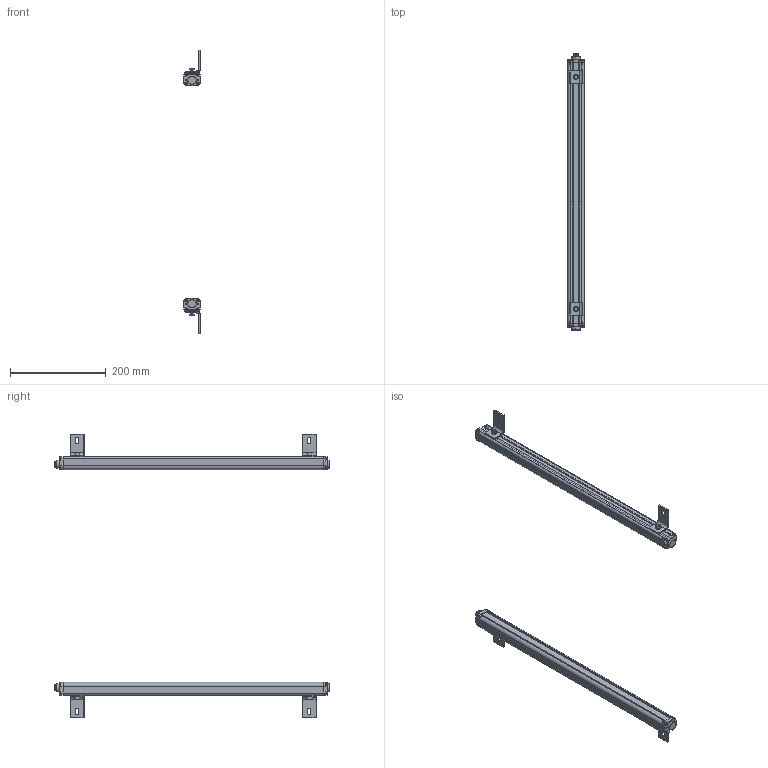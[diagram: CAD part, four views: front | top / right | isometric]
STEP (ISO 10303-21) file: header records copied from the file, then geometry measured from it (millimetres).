
FILE_DESCRIPTION (( 'STEP AP214' ), '1' );
FILE_NAME ('elg5210.STEP', '2018-03-08T11:14:31', ( '' ), ( '' ), 'SwSTEP 2.0', 'SolidWorks 2017', '' );
FILE_SCHEMA (( 'AUTOMOTIVE_DESIGN' ));
Length unit declared in the file: millimetre
Products named in the file (11): elgdg03-5210; dlx-5210; elg5210; lx-5210; czzj-5210; hkct1-5210; elgw-5210; hk-5210; glgdg-5210; bz1-5210; lgp-5210
Assembly tree (40 placements, depth 2):
  elg5210
    elgw-5210  x2
    bz1-5210  x2
    lgp-5210  x2
    glgdg-5210  x2
    elgdg03-5210  x2
    hkct1-5210  x2
    lx-5210  x16
    hk-5210  x4
    czzj-5210  x4
    dlx-5210  x4
Bounding box: 34.7 x 577.6 x 594 mm (x, y, z)
Volume: 429013.7 mm3; surface area: 446574.3 mm2
Topology: 40 solids, 40 shells, 2416 faces, 6296 edges, 3916 vertices
Faces by surface type: cylinder 1160, plane 688, bspline 568
Entity records: 148289 total; most frequent: CARTESIAN_POINT 130760, ORIENTED_EDGE 3668, DIRECTION 3386, EDGE_CURVE 1834, AXIS2_PLACEMENT_3D 1277, VERTEX_POINT 1174, EDGE_LOOP 840, LINE 832
